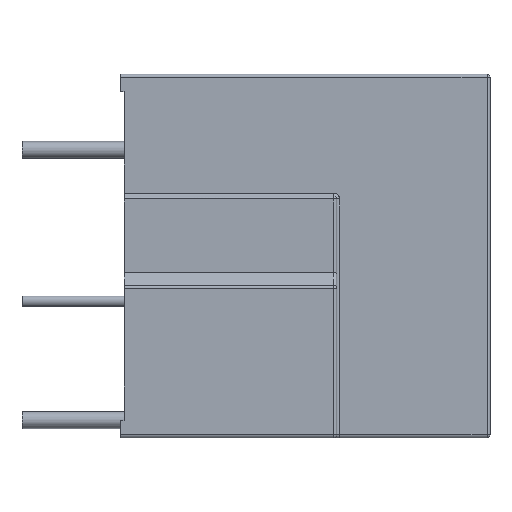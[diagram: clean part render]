
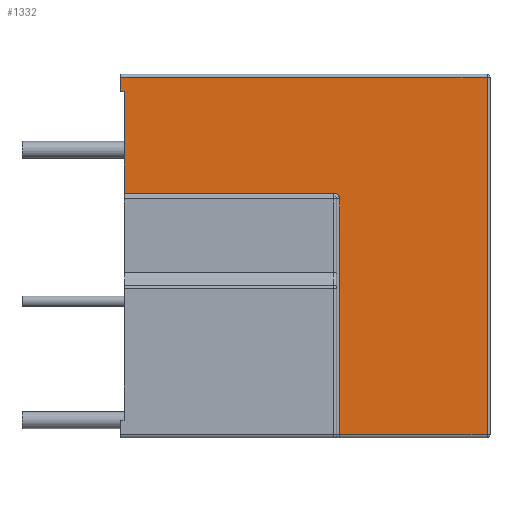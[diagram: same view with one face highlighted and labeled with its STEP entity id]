
A CAD part, left-side view. The second image highlights one B-rep face of the part: STEP entity #1332.
In plain terms, the highlighted planar face has unit normal (-1, 0, 0).
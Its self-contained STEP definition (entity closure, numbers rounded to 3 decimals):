
#140=DIRECTION('',(0.,0.,1.));
#141=VECTOR('',#140,1.5);
#142=CARTESIAN_POINT('',(-6.3,37.6,-1.8));
#143=LINE('',#142,#141);
#198=DIRECTION('',(0.,0.,1.));
#199=VECTOR('',#198,10.3);
#200=CARTESIAN_POINT('',(-6.3,37.2,-12.1));
#201=LINE('',#200,#199);
#362=DIRECTION('',(0.,1.,0.));
#363=VECTOR('',#362,21.3);
#364=CARTESIAN_POINT('',(-6.3,15.9,-12.1));
#365=LINE('',#364,#363);
#366=DIRECTION('',(0.,1.,0.));
#367=VECTOR('',#366,0.4);
#368=CARTESIAN_POINT('',(-6.3,37.2,-1.8));
#369=LINE('',#368,#367);
#370=DIRECTION('',(0.,1.,0.));
#371=VECTOR('',#370,37.3);
#372=CARTESIAN_POINT('',(-6.3,0.3,-0.3));
#373=LINE('',#372,#371);
#374=DIRECTION('',(0.,0.,1.));
#375=VECTOR('',#374,36.4);
#376=CARTESIAN_POINT('',(-6.3,0.3,-36.7));
#377=LINE('',#376,#375);
#378=DIRECTION('',(0.,1.,0.));
#379=VECTOR('',#378,15.);
#380=CARTESIAN_POINT('',(-6.3,0.3,-36.7));
#381=LINE('',#380,#379);
#382=DIRECTION('',(0.,0.,1.));
#383=VECTOR('',#382,24.);
#384=CARTESIAN_POINT('',(-6.3,15.3,-36.7));
#385=LINE('',#384,#383);
#386=CARTESIAN_POINT('',(-6.3,15.9,-12.7));
#387=DIRECTION('',(1.,0.,0.));
#388=DIRECTION('',(0.,0.,1.));
#389=AXIS2_PLACEMENT_3D('',#386,#387,#388);
#755=CARTESIAN_POINT('',(-6.3,37.6,-1.8));
#756=VERTEX_POINT('',#755);
#783=CARTESIAN_POINT('',(-6.3,37.2,-1.8));
#784=VERTEX_POINT('',#783);
#835=CARTESIAN_POINT('',(-6.3,15.9,-12.1));
#836=CARTESIAN_POINT('',(-6.3,37.2,-12.1));
#837=VERTEX_POINT('',#835);
#838=VERTEX_POINT('',#836);
#887=CARTESIAN_POINT('',(-6.3,37.6,-0.3));
#889=VERTEX_POINT('',#887);
#891=CARTESIAN_POINT('',(-6.3,0.3,-0.3));
#892=VERTEX_POINT('',#891);
#893=CARTESIAN_POINT('',(-6.3,0.3,-36.7));
#894=VERTEX_POINT('',#893);
#895=CARTESIAN_POINT('',(-6.3,15.3,-36.7));
#896=VERTEX_POINT('',#895);
#915=CARTESIAN_POINT('',(-6.3,15.3,-12.7));
#916=VERTEX_POINT('',#915);
#1309=CARTESIAN_POINT('',(-6.3,0.,-12.4));
#1310=DIRECTION('',(-1.,0.,0.));
#1311=DIRECTION('',(0.,0.,1.));
#1312=AXIS2_PLACEMENT_3D('',#1309,#1310,#1311);
#1313=PLANE('',#1312);
#1315=ORIENTED_EDGE('',*,*,#1314,.T.);
#1316=ORIENTED_EDGE('',*,*,#1120,.T.);
#1318=ORIENTED_EDGE('',*,*,#1317,.T.);
#1319=ORIENTED_EDGE('',*,*,#1086,.T.);
#1321=ORIENTED_EDGE('',*,*,#1320,.F.);
#1323=ORIENTED_EDGE('',*,*,#1322,.F.);
#1325=ORIENTED_EDGE('',*,*,#1324,.T.);
#1327=ORIENTED_EDGE('',*,*,#1326,.T.);
#1329=ORIENTED_EDGE('',*,*,#1328,.F.);
#1330=EDGE_LOOP('',(#1315,#1316,#1318,#1319,#1321,#1323,#1325,#1327,#1329));
#1331=FACE_OUTER_BOUND('',#1330,.F.);
#1332=ADVANCED_FACE('',(#1331),#1313,.T.);
#390=CIRCLE('',#389,0.6);
#1086=EDGE_CURVE('',#756,#889,#143,.T.);
#1120=EDGE_CURVE('',#838,#784,#201,.T.);
#1314=EDGE_CURVE('',#837,#838,#365,.T.);
#1317=EDGE_CURVE('',#784,#756,#369,.T.);
#1320=EDGE_CURVE('',#892,#889,#373,.T.);
#1322=EDGE_CURVE('',#894,#892,#377,.T.);
#1324=EDGE_CURVE('',#894,#896,#381,.T.);
#1326=EDGE_CURVE('',#896,#916,#385,.T.);
#1328=EDGE_CURVE('',#837,#916,#390,.T.);
